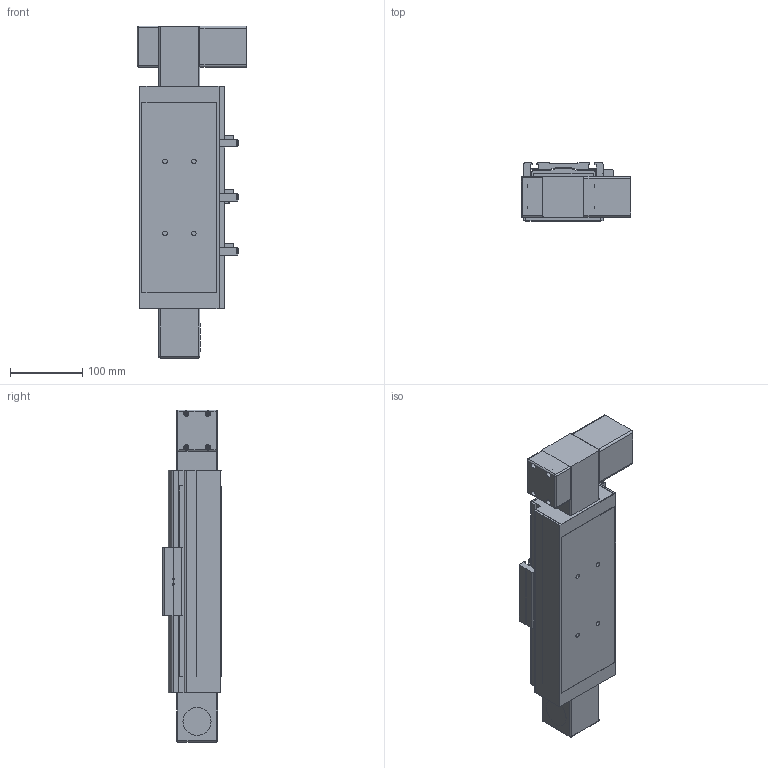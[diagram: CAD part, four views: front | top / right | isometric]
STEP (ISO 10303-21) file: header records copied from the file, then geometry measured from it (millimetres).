
FILE_DESCRIPTION((''),'2;1');
FILE_NAME('E:\uia actuator\UIA actuator 3d- 2015\Belt drive actuator\UIA110BR12(15)DC\UIA110BR12(15)DC-STEP FILE\UIA110BR12(15) stp file 13May16\UIA110BR12(15)DC-150-M23-P13-C10-S.stp','2016-05-13T14:40:34',('h029'),(''),'Autodesk Inventor 11','Autodesk Inventor 11','');
FILE_SCHEMA(('AUTOMOTIVE_DESIGN { 1 0 10303 214 1 1 1 1 }'));
Length unit declared in the file: millimetre
Products named in the file (11): UIA110BR12(15)DC-150; UIA110BR12(15)DC-150-body; UIA110BR12(15)DC-150-Sensor rail; UIA110B-Carriage; UIA110B- Sensor Flag; UIA110B-Cover; SOH-32C; SOH-32C-3; SOH-32C-1; SOH-32C-2; Motor mount
Assembly tree (10 placements, depth 3):
  UIA110BR12(15)DC-150
    UIA110BR12(15)DC-150-body
    UIA110BR12(15)DC-150-Sensor rail
    UIA110B-Carriage
    UIA110B- Sensor Flag
    UIA110B-Cover
    SOH-32C
      SOH-32C-3
      SOH-32C-1
      SOH-32C-2
    Motor mount
Bounding box: 152 x 81 x 461 mm (x, y, z)
Volume: 1855888.8 mm3; surface area: 435817 mm2
Topology: 9 solids, 13 shells, 692 faces, 1930 edges, 1248 vertices
Faces by surface type: plane 439, cylinder 163, cone 42, bspline 40, sphere 8
Full cylindrical faces by diameter (mm): 2.459 x4, 3 x2, 3.242 x8, 3.5 x4, 4 x10, 4.5 x4, 4.917 x8, 5 x2, 6.35 x1, 6.5 x4, 7.5 x4, 10 x3, 11 x4, 12 x1, 20 x2, 32 x3, 37 x1, 38.1 x1, 39 x2, 43.5 x1, 46 x2
Entity records: 22378 total; most frequent: CARTESIAN_POINT 5133, DIRECTION 3519, ORIENTED_EDGE 3390, EDGE_CURVE 1695, AXIS2_PLACEMENT_3D 1180, VERTEX_POINT 1168, VECTOR 1159, LINE 1159
